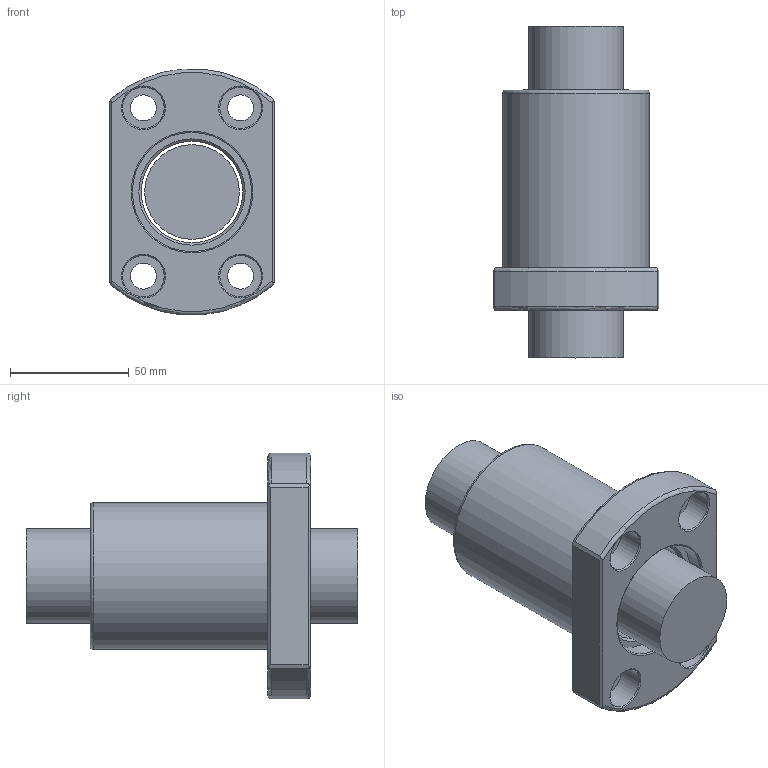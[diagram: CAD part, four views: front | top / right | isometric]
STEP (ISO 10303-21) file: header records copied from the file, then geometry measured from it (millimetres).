
FILE_DESCRIPTION(/* description */ (''),/* implementation_level */ '2;1');
FILE_NAME(/* name */ '4010T4D.prt.step',/* time_stamp */ '2008-12-05T09:37:00+08:00',/* author */ (''),/* organization */ (''),/* preprocessor_version */ 'ST-DEVELOPER v11',/* originating_system */ 'SIEMENS UGS NX 6.0',/* authorisation */ '');
FILE_SCHEMA (('AUTOMOTIVE_DESIGN { 1 0 10303 214 1 1 1 1 }'));
Length unit declared in the file: millimetre
Products named in the file (1): 4010T4D
Bounding box: 70 x 140 x 103.67 mm (x, y, z)
Volume: 366581.6 mm3; surface area: 65343.4 mm2
Topology: 2 solids, 2 shells, 53 faces, 121 edges, 79 vertices
Faces by surface type: plane 21, cylinder 15, cone 10, torus 7
Full cylindrical faces by diameter (mm): 11 x4, 17.5 x4, 39.95 x1, 42.8 x1, 50.3 x2, 62 x1
Entity records: 1534 total; most frequent: CARTESIAN_POINT 428, DIRECTION 226, ORIENTED_EDGE 174, AXIS2_PLACEMENT_3D 101, EDGE_LOOP 96, EDGE_CURVE 87, FACE_BOUND 78, VERTEX_POINT 71
